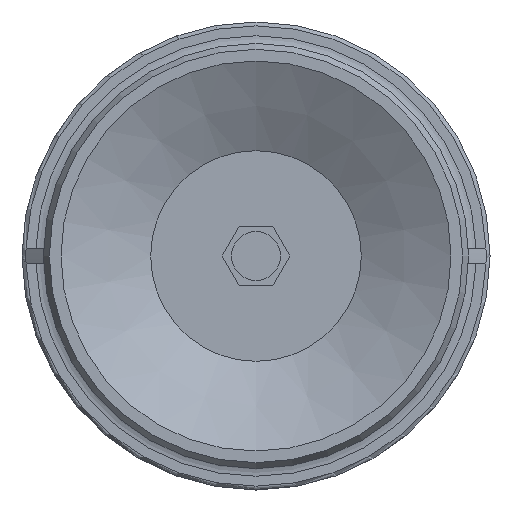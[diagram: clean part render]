
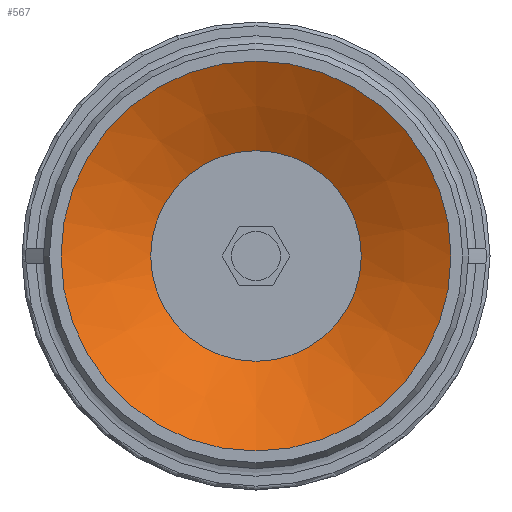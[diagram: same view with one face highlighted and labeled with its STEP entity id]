
A CAD part, front view. The second image highlights one B-rep face of the part: STEP entity #567.
In plain terms, the highlighted conical face has half-angle 61.631 degrees and reference radius 5.4 mm.
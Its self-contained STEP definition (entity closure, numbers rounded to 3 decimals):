
#567=ADVANCED_FACE('',(#859,#860),#861,.F.);
#859=FACE_BOUND('',#1182,.T.);
#860=FACE_OUTER_BOUND('',#1183,.T.);
#861=CONICAL_SURFACE('',#1184,5.4,1.076);
#1182=EDGE_LOOP('',(#2001));
#1183=EDGE_LOOP('',(#2002));
#1184=AXIS2_PLACEMENT_3D('',#2003,#2004,#2005);
#2001=ORIENTED_EDGE('',*,*,#2337,.F.);
#2002=ORIENTED_EDGE('',*,*,#2346,.T.);
#2003=CARTESIAN_POINT('',(0.0,2.484,0.0));
#2004=DIRECTION('',(-0.0,-1.0,0.));
#2005=DIRECTION('',(0.0,0.,-1.0));
#2337=EDGE_CURVE('',#2734,#2734,#2735,.T.);
#2346=EDGE_CURVE('',#2751,#2751,#2752,.T.);
#2734=VERTEX_POINT('',#3594);
#2735=CIRCLE('',#3595,5.4);
#2751=VERTEX_POINT('',#3613);
#2752=CIRCLE('',#3614,10.0);
#3594=CARTESIAN_POINT('',(0.0,2.484,-5.4));
#3595=AXIS2_PLACEMENT_3D('',#3988,#3989,#3990);
#3613=CARTESIAN_POINT('',(0.0,0.,-10.0));
#3614=AXIS2_PLACEMENT_3D('',#4011,#4012,#4013);
#3988=CARTESIAN_POINT('',(0.0,2.484,0.0));
#3989=DIRECTION('',(0.0,-1.0,0.));
#3990=DIRECTION('',(0.0,0.,-1.0));
#4011=CARTESIAN_POINT('',(0.0,0.0,0.0));
#4012=DIRECTION('',(0.0,-1.0,0.));
#4013=DIRECTION('',(0.0,0.,-1.0));
